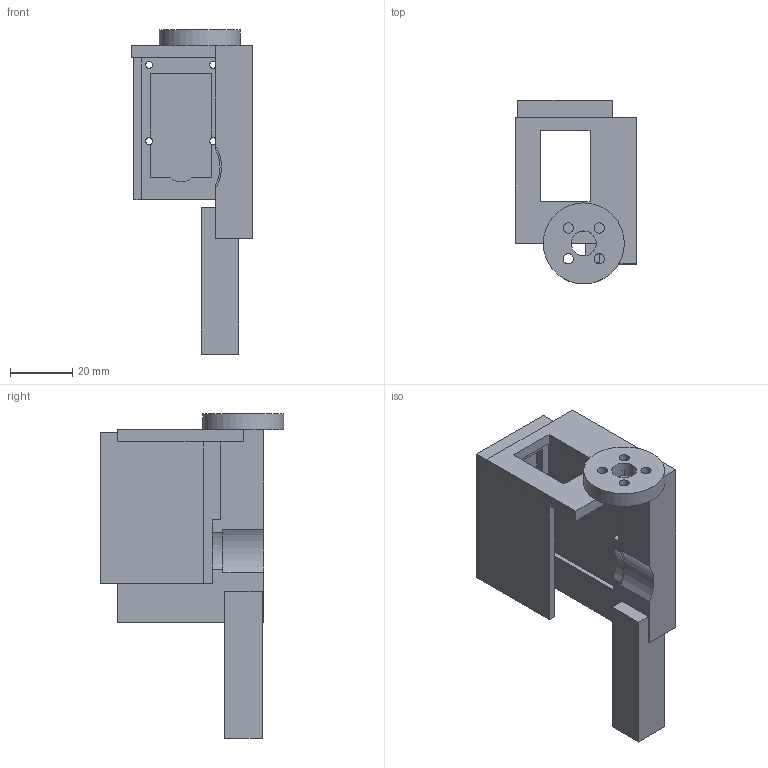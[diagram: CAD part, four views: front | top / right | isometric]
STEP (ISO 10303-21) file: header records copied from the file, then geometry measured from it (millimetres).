
FILE_DESCRIPTION(('Open CASCADE Model'),'2;1');
FILE_NAME('Open CASCADE Shape Model','2026-10-02T23:27:42',('Author'),( 'Open CASCADE'),'Open CASCADE STEP processor 7.9','Open CASCADE 7.9' ,'Unknown');
FILE_SCHEMA(('AUTOMOTIVE_DESIGN { 1 0 10303 214 1 1 1 1 }'));
Length unit declared in the file: millimetre
Products named in the file (1): Open CASCADE STEP translator 7.9 9
Bounding box: 39 x 59 x 104 mm (x, y, z)
Volume: 51703 mm3; surface area: 20148 mm2
Topology: 1 solids, 1 shells, 83 faces, 215 edges, 139 vertices
Faces by surface type: plane 58, cylinder 25
Full cylindrical faces by diameter (mm): 2.2 x4, 3.3 x4, 4.4 x4, 8 x1, 26 x1
Entity records: 5438 total; most frequent: CARTESIAN_POINT 1204, DIRECTION 765, LINE 453, VECTOR 453, ORIENTED_EDGE 430, PCURVE 430, DEFINITIONAL_REPRESENTATION 430, EDGE_CURVE 215
